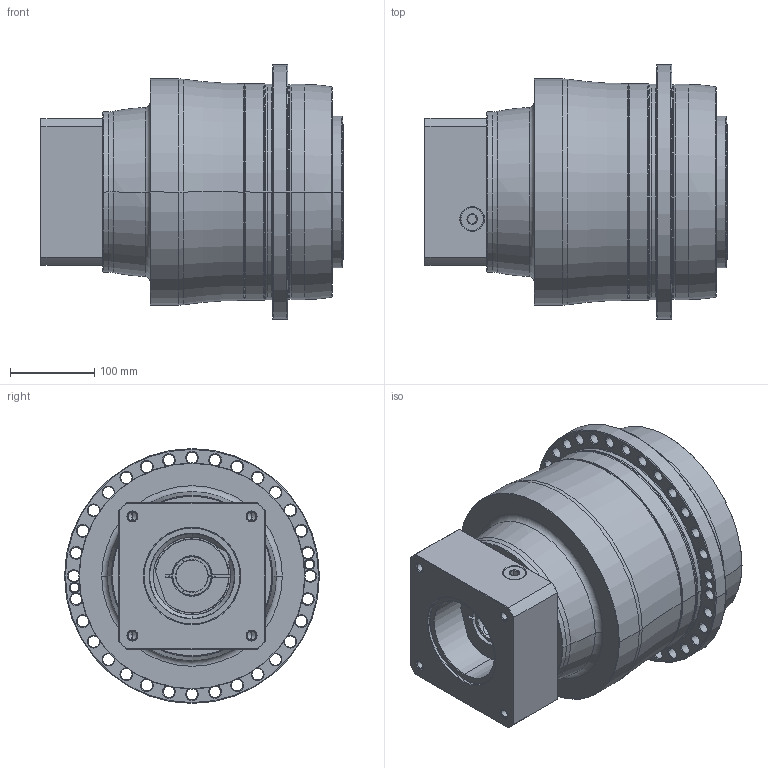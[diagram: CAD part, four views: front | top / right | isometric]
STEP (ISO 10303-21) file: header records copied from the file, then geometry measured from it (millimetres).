
FILE_DESCRIPTION((''),'2;1');
FILE_NAME('AP255_3ST_38-P0409910201_ASM','2018-06-06T',('d01226'),(''),'PRO/ENGINEER BY PARAMETRIC TECHNOLOGY CORPORATION, 2008410','PRO/ENGINEER BY PARAMETRIC TECHNOLOGY CORPORATION, 2008410','');
FILE_SCHEMA(('CONFIG_CONTROL_DESIGN'));
Length unit declared in the file: millimetre
Products named in the file (9): P0278701003; P0359701103; P1366700401; P0503900012; P0912554001; P1211700001; P0409910201; 21711422019; AP255_3ST_38-P0409910201_ASM
Assembly tree (8 placements, depth 2):
  AP255_3ST_38-P0409910201_ASM
    P0278701003
    P0359701103
    P1366700401
    P0503900012
    P0912554001
    P1211700001
    P0409910201
    21711422019
Bounding box: 359 x 302 x 302 mm (x, y, z)
Volume: 15086351.1 mm3; surface area: 818193.5 mm2
Topology: 9 solids, 32 shells, 677 faces, 1620 edges, 983 vertices
Faces by surface type: cylinder 268, cone 222, plane 98, torus 73, bspline 16
Entity records: 24773 total; most frequent: CARTESIAN_POINT 8227, DIRECTION 3817, ORIENTED_EDGE 3126, AXIS2_PLACEMENT_3D 1631, EDGE_CURVE 1610, VERTEX_POINT 983, CIRCLE 941, EDGE_LOOP 815
